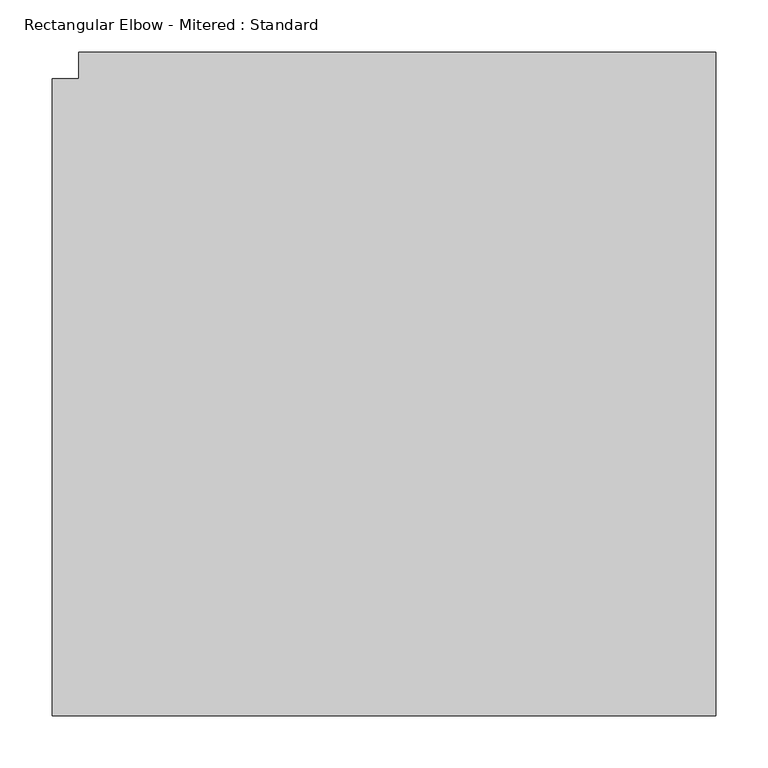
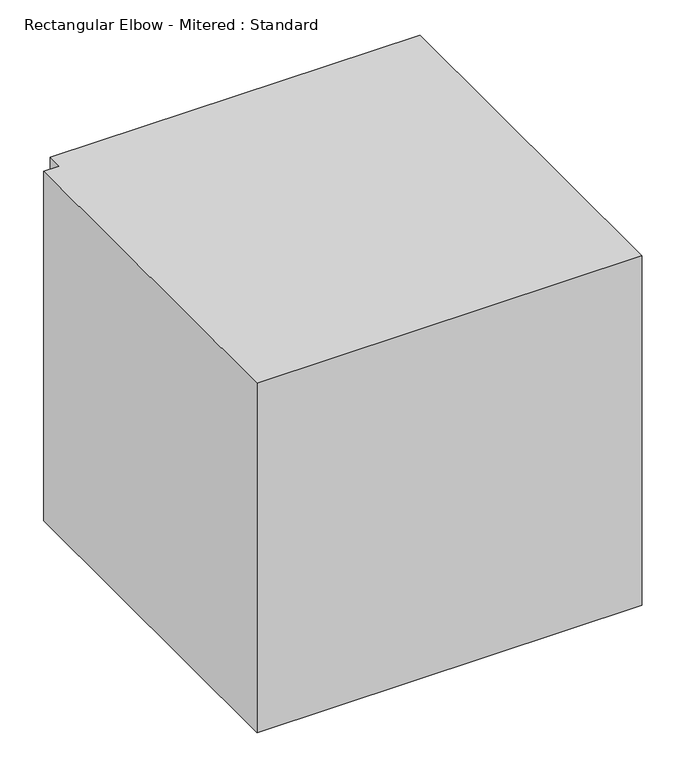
"""IFC4 building model written with IfcOpenShell, lengths in millimetres: duct fitting geometry, Rectangular Elbow - Mitered : Standard."""

import ifcopenshell
import ifcopenshell.guid

model = None  # the IFC model being written
_history = None  # IfcOwnerHistory: only IFC2X3 demands one
_inside = {}  # id of a spatial element -> (the spatial element, [elements in it])
_under = {}  # id of a project, library or spatial element -> (it, [spatial elements below it])
_declared = {}  # id of a project -> (the project, [libraries it declares])
_typed = {}  # id of a type object -> (the type object, [elements of that type])
_made_of = {}  # id of a material, layer set ... -> (it, [elements and type objects made of it])


def new_model(schema):
    """Start an empty IFC model of exactly this schema.

    Asked for "IFC4X3", IfcOpenShell would pick the latest addendum, in which some entities
    have other attributes; the version numbers below select the first issue.
    IFC2X3 requires an IfcOwnerHistory on every rooted entity: one is made here for all.
    """
    global model, _history
    if schema == "IFC4X3":
        model = ifcopenshell.file(schema_version=(4, 3, 0, 0))
    else:
        model = ifcopenshell.file(schema=schema)
    _inside.clear()
    _under.clear()
    _declared.clear()
    _typed.clear()
    _made_of.clear()
    _history = None
    if model.schema == "IFC2X3":
        org = make("IfcOrganization", Name="unknown")
        user = make(
            "IfcPersonAndOrganization",
            ThePerson=make("IfcPerson", FamilyName="unknown"),
            TheOrganization=org,
        )
        app = make(
            "IfcApplication",
            ApplicationDeveloper=org,
            Version="unknown",
            ApplicationFullName="unknown",
            ApplicationIdentifier="unknown",
        )
        _history = make(
            "IfcOwnerHistory",
            OwningUser=user,
            OwningApplication=app,
            ChangeAction="ADDED",
            CreationDate=0,
        )
    return model


def make(cls, **values):
    """One entity of the class cls with the attributes given. An attribute that is None is left unset."""
    return model.create_entity(
        cls, **{name: value for name, value in values.items() if value is not None}
    )


def rooted(cls, **values):
    """An entity with a GlobalId (a new one), such as an element, a storey or a relation."""
    return make(cls, GlobalId=ifcopenshell.guid.new(), OwnerHistory=_history, **values)


def si_unit(unit_type, name, prefix=None):
    """IfcSIUnit, for example si_unit("LENGTHUNIT", "METRE", prefix="MILLI")."""
    return make("IfcSIUnit", UnitType=unit_type, Prefix=prefix, Name=name)


def assignment(units):
    """IfcUnitAssignment: the units of a project."""
    return None if units is None else make("IfcUnitAssignment", Units=units)


def point(xyz):
    """IfcCartesianPoint."""
    return None if xyz is None else make("IfcCartesianPoint", Coordinates=xyz)


def direction(xyz):
    """IfcDirection."""
    return None if xyz is None else make("IfcDirection", DirectionRatios=xyz)


def frame(location, z_axis=None, x_axis=None):
    """IfcAxis2Placement3D, a coordinate frame: its origin and axes. An axis left out is left unset."""
    return make(
        "IfcAxis2Placement3D",
        Location=point(location),
        Axis=direction(z_axis),
        RefDirection=direction(x_axis),
    )


def origin():
    """The frame at (0, 0, 0) with its axes left unset."""
    return frame((0.0, 0.0, 0.0))


def place(relative_to, where):
    """IfcLocalPlacement: puts the frame where relative to a parent placement (None: the world)."""
    return make(
        "IfcLocalPlacement", PlacementRelTo=relative_to, RelativePlacement=where
    )


def context(
    kind, dimensions, precision=None, world=None, true_north=None, identifier=None
):
    """IfcGeometricRepresentationContext, for example the 3D "Model" context."""
    return make(
        "IfcGeometricRepresentationContext",
        ContextIdentifier=identifier,
        ContextType=kind,
        CoordinateSpaceDimension=dimensions,
        Precision=precision,
        WorldCoordinateSystem=world,
        TrueNorth=true_north,
    )


def project(units=None, contexts=None):
    """IfcProject with its units and contexts."""
    return rooted(
        "IfcProject",
        Name="project",
        RepresentationContexts=contexts,
        UnitsInContext=assignment(units),
    )


def spatial(cls, under=None, at=None, **own):
    """A site, building, storey or space (cls), placed at a placement, below another one or the project."""
    s = rooted(cls, ObjectPlacement=at, **own)
    if under is not None:
        _under.setdefault(under.id(), (under, []))[1].append(s)
    return s


def polyline(points):
    """IfcPolyline through the points."""
    return make("IfcPolyline", Points=[point(p) for p in points])


def outline(outer, holes=None, kind="AREA"):
    """IfcArbitraryClosedProfileDef: a profile drawn as a closed curve; with holes, ...WithVoids."""
    if holes is None:
        return make("IfcArbitraryClosedProfileDef", ProfileType=kind, OuterCurve=outer)
    return make(
        "IfcArbitraryProfileDefWithVoids",
        ProfileType=kind,
        OuterCurve=outer,
        InnerCurves=holes,
    )


def extrude(swept, where, along, depth):
    """IfcExtrudedAreaSolid: the profile swept, set in the frame where, extruded along a direction by depth."""
    return make(
        "IfcExtrudedAreaSolid",
        SweptArea=swept,
        Position=where,
        ExtrudedDirection=direction(along),
        Depth=depth,
    )


def shape(context_of_items, identifier, shape_type, items):
    """IfcShapeRepresentation: the items that make up one representation, for example the "Body"."""
    return make(
        "IfcShapeRepresentation",
        ContextOfItems=context_of_items,
        RepresentationIdentifier=identifier,
        RepresentationType=shape_type,
        Items=items,
    )


def source(mapping_origin, context_of_items, identifier, shape_type, items):
    """IfcRepresentationMap: a shape defined once, which mapped items show again and again."""
    return make(
        "IfcRepresentationMap",
        MappingOrigin=mapping_origin,
        MappedRepresentation=shape(context_of_items, identifier, shape_type, items),
    )


def transform(
    local_origin,
    x_axis=None,
    y_axis=None,
    z_axis=None,
    scale=None,
    scale2=None,
    scale3=None,
    uniform=True,
):
    """IfcCartesianTransformationOperator3D, or its non-uniform kind. x_axis, y_axis, z_axis: its Axis1, 2, 3."""
    if uniform:
        return make(
            "IfcCartesianTransformationOperator3D",
            Axis1=direction(x_axis),
            Axis2=direction(y_axis),
            LocalOrigin=point(local_origin),
            Scale=scale,
            Axis3=direction(z_axis),
        )
    return make(
        "IfcCartesianTransformationOperator3DnonUniform",
        Axis1=direction(x_axis),
        Axis2=direction(y_axis),
        LocalOrigin=point(local_origin),
        Scale=scale,
        Axis3=direction(z_axis),
        Scale2=scale2,
        Scale3=scale3,
    )


def mapped(mapping_source, mapping_target):
    """IfcMappedItem: shows the shape of a source again, moved by a transform."""
    return make(
        "IfcMappedItem", MappingSource=mapping_source, MappingTarget=mapping_target
    )


def made_of(thing, what):
    """Note that an element or type object is made of a material, layer set ...; save() writes the relation."""
    if what is not None:
        _made_of.setdefault(what.id(), (what, []))[1].append(thing)
    return thing


def element(
    cls,
    number,
    at=None,
    inside=None,
    cuts=None,
    type_object=None,
    material=None,
    context=None,
    identifier="Body",
    shape_type=None,
    held_by="IfcProductDefinitionShape",
    body=None,
    shapes=None,
    **own,
):
    """One element of the class cls, such as IfcWall. Its Tag is "e" and its number.

    at: its placement. inside: the storey or other place that contains it. cuts: it is an
    opening in that element (IfcRelVoidsElement). A single representation is given by context,
    identifier, shape_type and body (its items); several are given by shapes. held_by: the class
    of the entity that holds the representations. save() writes the other relations.
    """
    e = rooted(cls, Tag="e%d" % number, ObjectPlacement=at, **own)
    if body is not None:
        shapes = [shape(context, identifier, shape_type, body)]
    if shapes is not None:
        e.Representation = make(held_by, Representations=shapes)
    if inside is not None:
        _inside.setdefault(inside.id(), (inside, []))[1].append(e)
    if cuts is not None:
        rooted(
            "IfcRelVoidsElement", RelatingBuildingElement=cuts, RelatedOpeningElement=e
        )
    if type_object is not None:
        _typed.setdefault(type_object.id(), (type_object, []))[1].append(e)
    return made_of(e, material)


def aggregate(whole, parts):
    """IfcRelAggregates: a whole, such as a stair, and the parts it consists of."""
    return rooted("IfcRelAggregates", RelatingObject=whole, RelatedObjects=parts)


def save(model, path):
    """Write the relations noted so far, then the file.

    IfcRelAggregates (storeys below a building ...), IfcRelContainedInSpatialStructure (elements
    in a storey), IfcRelDefinesByType, IfcRelAssociatesMaterial and IfcRelDeclares: one each for
    every whole, place, type object, material and project.
    """
    for whole, parts in _under.values():
        aggregate(whole, parts)
    for where, things in _inside.values():
        rooted(
            "IfcRelContainedInSpatialStructure",
            RelatedElements=things,
            RelatingStructure=where,
        )
    for kind, things in _typed.values():
        rooted("IfcRelDefinesByType", RelatedObjects=things, RelatingType=kind)
    for what, things in _made_of.values():
        rooted("IfcRelAssociatesMaterial", RelatedObjects=things, RelatingMaterial=what)
    for by, libraries in _declared.values():
        rooted("IfcRelDeclares", RelatingContext=by, RelatedDefinitions=libraries)
    model.write(path)


def rectangular_elbow_mitered_standard_5cce6547(model_context):
    return source(origin(), model_context, "Body", "SweptSolid", [
        extrude(outline(polyline([(-330.2, -304.8), (-330.2, 304.8), (-304.8, 304.8), (-304.8, 330.2), (304.8, 330.2), (304.8, -304.8), (-330.2, -304.8)])), frame((0.0, 0.0, -304.8), z_axis=(0.0, 0.0, 1.0), x_axis=(1.0, 0.0, 0.0)), (0.0, 0.0, 1.0), 609.6),
    ])


if __name__ == "__main__":
    model = new_model("IFC4")
    model_context = context("Model", 3, world=origin())
    ifc_project = project(units=[si_unit("LENGTHUNIT", "METRE", prefix="MILLI")], contexts=[model_context])
    site = spatial("IfcSite", under=ifc_project)
    building = spatial("IfcBuilding", under=site)
    placement = place(None, origin())
    rectangular_elbow_mitered_standard_shape = rectangular_elbow_mitered_standard_5cce6547(model_context)
    element("IfcDuctFitting", 1, ObjectType="Rectangular Elbow - Mitered : Standard", at=placement, inside=building, context=model_context, shape_type="MappedRepresentation", body=[
        mapped(rectangular_elbow_mitered_standard_shape, transform((0.0, 0.0, 0.0), x_axis=(1.0, 0.0, 0.0), y_axis=(0.0, 1.0, 0.0), z_axis=(0.0, 0.0, 1.0))),
    ])
    save(model, "model.ifc")
